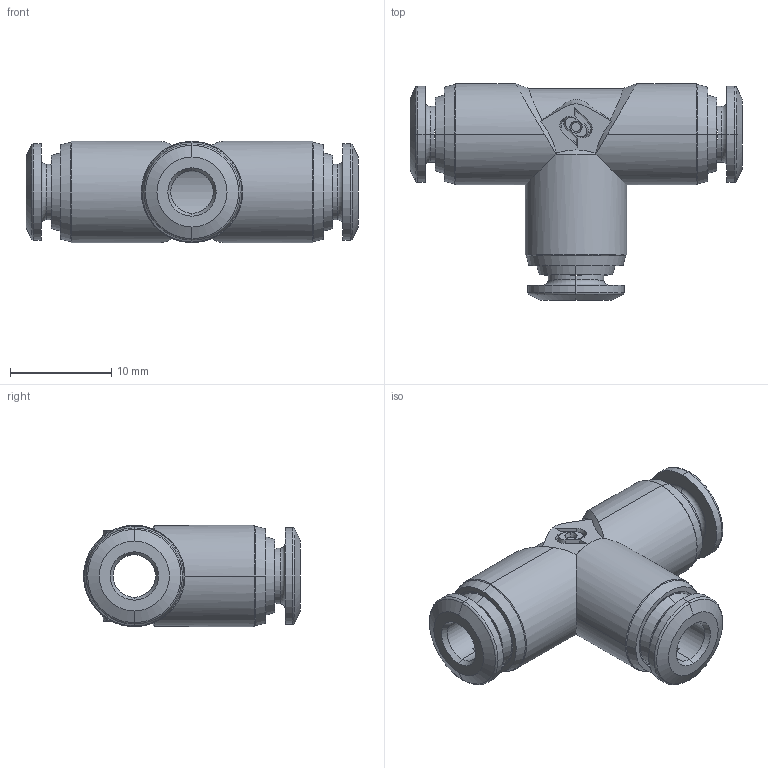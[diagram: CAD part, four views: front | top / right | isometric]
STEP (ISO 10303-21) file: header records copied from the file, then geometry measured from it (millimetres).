
FILE_DESCRIPTION (( 'STEP AP214' ), '1' );
FILE_NAME ('40230V0001A.STEP', '2016-05-19T12:50:19', ( '' ), ( '' ), 'SwSTEP 2.0', 'SolidWorks 2016', '' );
FILE_SCHEMA (( 'AUTOMOTIVE_DESIGN' ));
Length unit declared in the file: millimetre
Products named in the file (1): 40230V0001A
Bounding box: 32.8 x 21.4 x 10 mm (x, y, z)
Surface area: 2220.9 mm2 (no closed solid volume)
Topology: 0 solids, 7 shells, 156 faces, 465 edges, 317 vertices
Faces by surface type: cone 52, plane 51, cylinder 37, torus 12, bspline 4
Entity records: 8014 total; most frequent: CARTESIAN_POINT 2124, DIRECTION 882, ORIENTED_EDGE 816, EDGE_CURVE 465, AXIS2_PLACEMENT_3D 343, VERTEX_POINT 317, LINE 196, VECTOR 196
